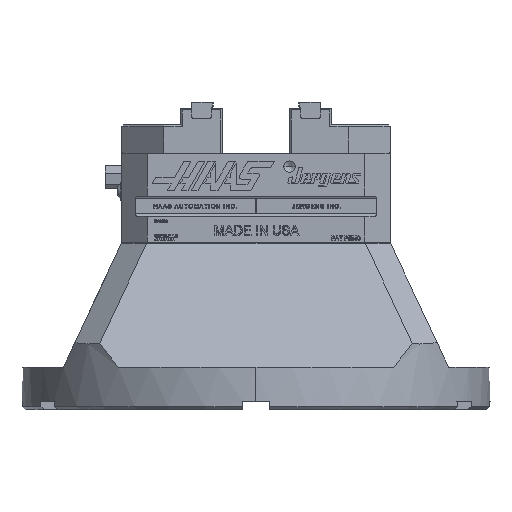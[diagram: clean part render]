
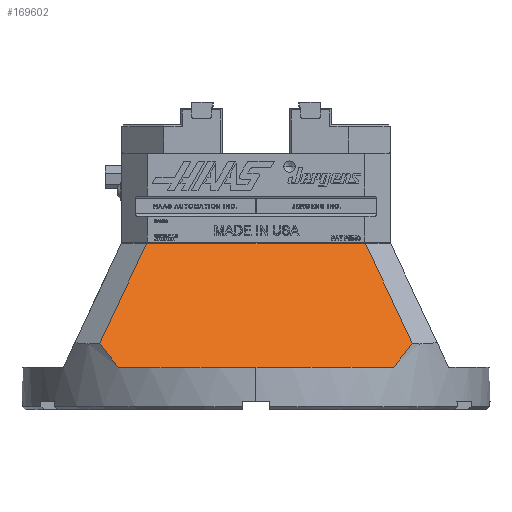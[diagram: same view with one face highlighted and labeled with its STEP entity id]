
A CAD part, left-side view. The second image highlights one B-rep face of the part: STEP entity #169602.
In plain terms, the highlighted planar face has unit normal (-0.841, 0, 0.541).
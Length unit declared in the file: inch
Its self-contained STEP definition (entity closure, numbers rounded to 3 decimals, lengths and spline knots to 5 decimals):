
#242 = ORIENTED_EDGE ( 'NONE', *, *, #201083, .F. ) ;
#6627 = CARTESIAN_POINT ( 'NONE',  ( -2.55906, -5.5, 3.93701 ) ) ;
#14111 = CARTESIAN_POINT ( 'NONE',  ( -4.21853, 3.5341, 1.35791 ) ) ;
#40926 = CARTESIAN_POINT ( 'NONE',  ( -2.58036, 2.57261, 3.9039 ) ) ;
#44220 = CARTESIAN_POINT ( 'NONE',  ( -4.09208, 3.6749, 1.55444 ) ) ;
#45049 = VERTEX_POINT ( 'NONE', #219498 ) ;
#50798 = VERTEX_POINT ( 'NONE', #40926 ) ;
#52497 = CARTESIAN_POINT ( 'NONE',  ( -4.44882, 3.23388, 1. ) ) ;
#53699 = CARTESIAN_POINT ( 'NONE',  ( -4.09208, 3.6749, 1.55444 ) ) ;
#61493 = VERTEX_POINT ( 'NONE', #173822 ) ;
#71243 = LINE ( 'NONE', #145641, #237856 ) ;
#80804 = DIRECTION ( 'NONE',  ( 0., -1., 0. ) ) ;
#83375 = EDGE_CURVE ( 'NONE', #45049, #107715, #206841, .T. ) ;
#88479 = CARTESIAN_POINT ( 'NONE',  ( -4.33754, 3.38696, 1.17294 ) ) ;
#88977 = CARTESIAN_POINT ( 'NONE',  ( -4.21853, -3.5341, 1.35791 ) ) ;
#90147 = CARTESIAN_POINT ( 'NONE',  ( -4.09208, -3.6749, 1.55444 ) ) ;
#95170 =( BOUNDED_CURVE ( )  B_SPLINE_CURVE ( 3, ( #52497, #88479, #14111, #213510 ),
 .UNSPECIFIED., .F., .F. ) 
 B_SPLINE_CURVE_WITH_KNOTS ( ( 4, 4 ),
 ( 0.62856, 0.73174 ),
 .UNSPECIFIED. ) 
 CURVE ( )  GEOMETRIC_REPRESENTATION_ITEM ( )  RATIONAL_B_SPLINE_CURVE ( ( 1., 0.999, 0.999, 1. ) ) 
 REPRESENTATION_ITEM ( '' )  );
#98199 = CARTESIAN_POINT ( 'NONE',  ( -2.58036, -2.57261, 3.9039 ) ) ;
#99128 = DIRECTION ( 'NONE',  ( -0.541, 0., -0.841 ) ) ;
#103865 = VECTOR ( 'NONE', #80804, 39.37008 ) ;
#106437 = EDGE_CURVE ( 'NONE', #61493, #107715, #230925, .T. ) ;
#107715 = VERTEX_POINT ( 'NONE', #139466 ) ;
#109704 = DIRECTION ( 'NONE',  ( 0., -1., 0. ) ) ;
#110500 = CARTESIAN_POINT ( 'NONE',  ( -2.58036, -2.57261, 3.9039 ) ) ;
#113196 = EDGE_LOOP ( 'NONE', ( #169239, #242, #201132, #114456, #120400, #178753 ) ) ;
#114456 = ORIENTED_EDGE ( 'NONE', *, *, #106437, .T. ) ;
#116856 = EDGE_CURVE ( 'NONE', #132704, #45049, #136543, .T. ) ;
#120400 = ORIENTED_EDGE ( 'NONE', *, *, #83375, .F. ) ;
#128724 = EDGE_CURVE ( 'NONE', #61493, #134910, #95170, .T. ) ;
#132704 = VERTEX_POINT ( 'NONE', #110500 ) ;
#134910 = VERTEX_POINT ( 'NONE', #44220 ) ;
#135093 = FACE_OUTER_BOUND ( 'NONE', #113196, .T. ) ;
#136543 = LINE ( 'NONE', #98199, #234506 ) ;
#139466 = CARTESIAN_POINT ( 'NONE',  ( -4.44882, -3.23388, 1. ) ) ;
#145641 = CARTESIAN_POINT ( 'NONE',  ( -2.58036, -5.5, 3.9039 ) ) ;
#149704 = DIRECTION ( 'NONE',  ( 0.503, -0.367, 0.782 ) ) ;
#152015 = DIRECTION ( 'NONE',  ( 0.841, 0., -0.541 ) ) ;
#162272 = CARTESIAN_POINT ( 'NONE',  ( -4.33754, -3.38696, 1.17294 ) ) ;
#169239 = ORIENTED_EDGE ( 'NONE', *, *, #223223, .F. ) ;
#169602 = ADVANCED_FACE ( 'NONE', ( #135093 ), #222932, .F. ) ;
#173822 = CARTESIAN_POINT ( 'NONE',  ( -4.44882, 3.23388, 1. ) ) ;
#175657 = CARTESIAN_POINT ( 'NONE',  ( -4.44882, -5.5, 1. ) ) ;
#178753 = ORIENTED_EDGE ( 'NONE', *, *, #116856, .F. ) ;
#201083 = EDGE_CURVE ( 'NONE', #134910, #50798, #218271, .T. ) ;
#201132 = ORIENTED_EDGE ( 'NONE', *, *, #128724, .F. ) ;
#206841 =( BOUNDED_CURVE ( )  B_SPLINE_CURVE ( 3, ( #90147, #88977, #162272, #235595 ),
 .UNSPECIFIED., .F., .F. ) 
 B_SPLINE_CURVE_WITH_KNOTS ( ( 4, 4 ),
 ( 5.55145, 5.65463 ),
 .UNSPECIFIED. ) 
 CURVE ( )  GEOMETRIC_REPRESENTATION_ITEM ( )  RATIONAL_B_SPLINE_CURVE ( ( 1., 0.999, 0.999, 1. ) ) 
 REPRESENTATION_ITEM ( '' )  );
#213510 = CARTESIAN_POINT ( 'NONE',  ( -4.09208, 3.6749, 1.55444 ) ) ;
#218271 = LINE ( 'NONE', #53699, #220549 ) ;
#219471 = AXIS2_PLACEMENT_3D ( 'NONE', #6627, #152015, #99128 ) ;
#219498 = CARTESIAN_POINT ( 'NONE',  ( -4.09208, -3.6749, 1.55444 ) ) ;
#220549 = VECTOR ( 'NONE', #149704, 39.37008 ) ;
#222932 = PLANE ( 'NONE',  #219471 ) ;
#223223 = EDGE_CURVE ( 'NONE', #50798, #132704, #71243, .T. ) ;
#225582 = DIRECTION ( 'NONE',  ( -0.503, -0.367, -0.782 ) ) ;
#230925 = LINE ( 'NONE', #175657, #103865 ) ;
#234506 = VECTOR ( 'NONE', #225582, 39.37008 ) ;
#235595 = CARTESIAN_POINT ( 'NONE',  ( -4.44882, -3.23388, 1. ) ) ;
#237856 = VECTOR ( 'NONE', #109704, 39.37008 ) ;
